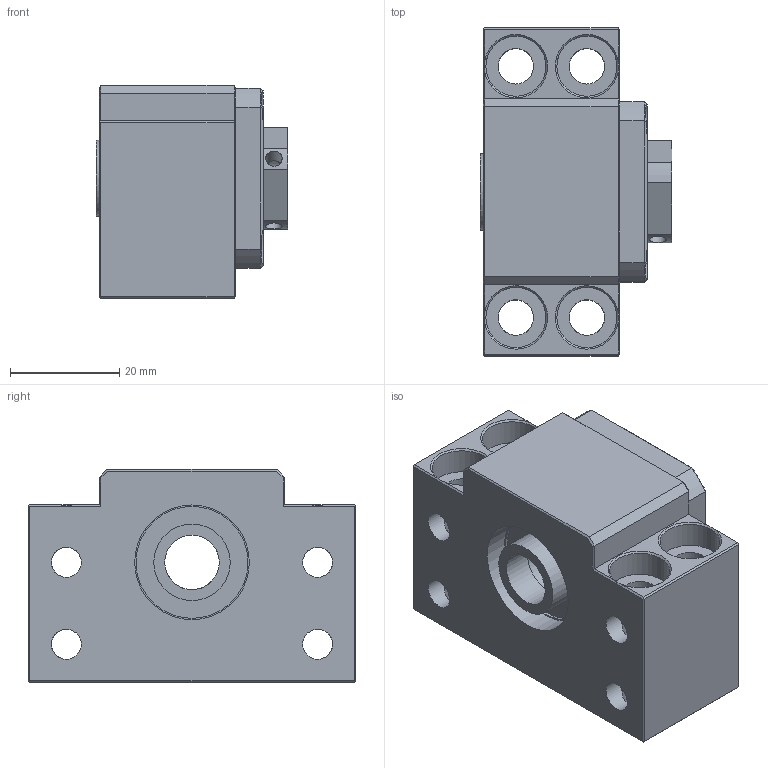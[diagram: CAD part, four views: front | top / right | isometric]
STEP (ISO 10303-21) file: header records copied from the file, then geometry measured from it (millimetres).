
FILE_DESCRIPTION(/* description */ (''),/* implementation_level */ '2;1');
FILE_NAME(/* name */ 'BK10.stp',/* time_stamp */ '2018-11-14T10:24:07+08:00',/* author */ (''),/* organization */ (''),/* preprocessor_version */ 'ST-DEVELOPER v14',/* originating_system */ 'SIEMENS PLM Software NX 8.0',/* authorisation */ '');
FILE_SCHEMA (('AUTOMOTIVE_DESIGN { 1 0 10303 214 3 1 1 1 }'));
Length unit declared in the file: millimetre
Products named in the file (6): BK10-A; BK10-B; GT-14-10-5.5; M10; 7000; BK10
Assembly tree (7 placements, depth 2):
  BK10
    7000  x2
    M10
    GT-14-10-5.5  x2
    BK10-B
    BK10-A
Bounding box: 35 x 60 x 39 mm (x, y, z)
Volume: 46983.3 mm3; surface area: 23290.2 mm2
Topology: 7 solids, 7 shells, 155 faces, 386 edges, 247 vertices
Faces by surface type: plane 78, cylinder 59, cone 16, torus 2
Full cylindrical faces by diameter (mm): 3 x2, 4 x4, 4.5 x4, 5.5 x12, 6.5 x4, 7.5 x4, 10 x5, 11 x4, 14 x2, 15 x1, 20.5 x1, 21 x2, 22 x1, 26 x4, 27.6 x1
Entity records: 5450 total; most frequent: CARTESIAN_POINT 2094, DIRECTION 650, ORIENTED_EDGE 556, EDGE_CURVE 278, EDGE_LOOP 272, AXIS2_PLACEMENT_3D 260, FACE_BOUND 213, VERTEX_POINT 212
